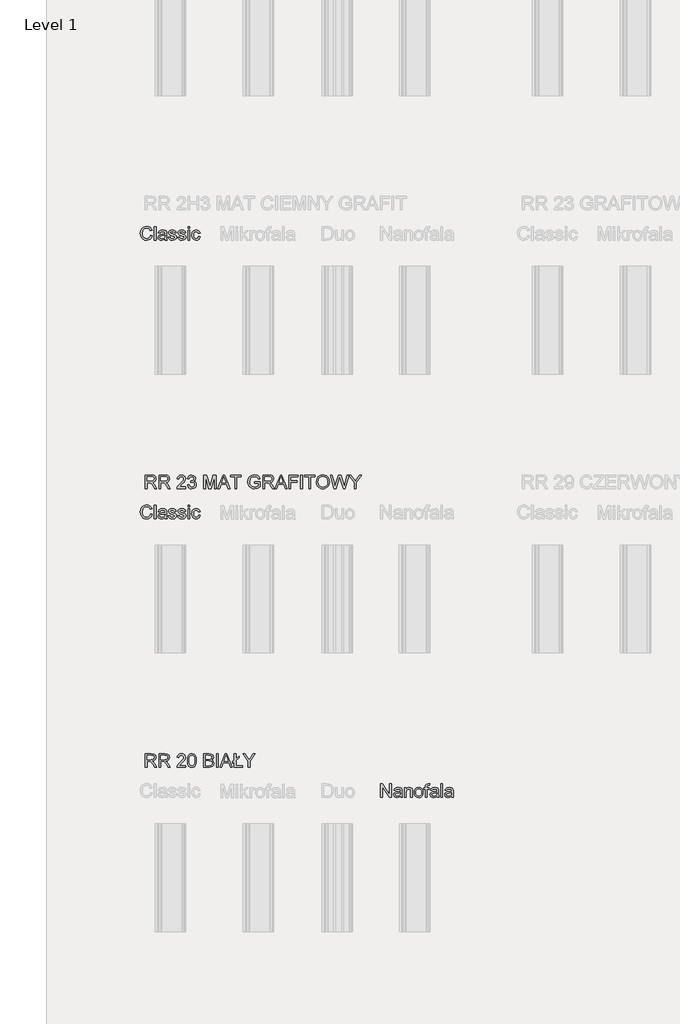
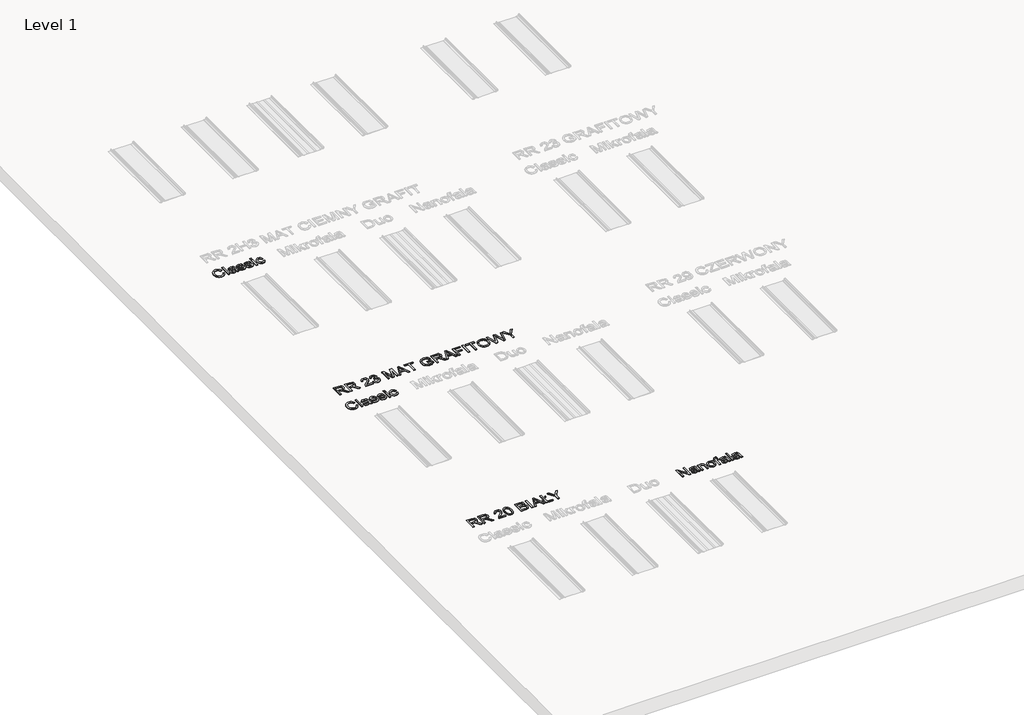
# One storey, part 11 of 24: 5 proxies.
"""IFC4 building model written with IfcOpenShell, lengths in millimetres."""

from ifc_helpers import new_model, si_unit, frame, origin, place, context, project, spatial, polyline, outline, extrude, element, save

model = new_model("IFC4")

# Units and contexts
model_context = context("Model", 3, world=origin())
ifc_project = project(units=[si_unit("LENGTHUNIT", "METRE", prefix="MILLI")], contexts=[model_context])

# Site, building, storey
site = spatial("IfcSite", under=ifc_project)
building = spatial("IfcBuilding", under=site)
storey = spatial("IfcBuildingStorey", under=building, Name="Level 1", Elevation=0.0)

# Proxies
placement = place(None, origin())
element("IfcBuildingElementProxy", 1, Name="150", ObjectType="150", at=placement, inside=storey, context=model_context, shape_type="SweptSolid", body=[
    extrude(outline(polyline([(-8679.0085992, -1917.1818641), (-8660.1730411, -1922.0379064), (-8668.8642532, -1943.986666), (-8682.5034782, -1960.0217224), (-8700.4193314, -1969.8303761), (-8721.9404281, -1973.0999274), (-8743.7880201, -1970.6259209), (-8761.1382547, -1963.2039017), (-8774.4371888, -1951.091387), (-8784.1308794, -1934.5458943), (-8790.049181, -1915.0941338), (-8792.0219482, -1894.2628158), (-8789.7916636, -1872.2910636), (-8783.1008098, -1853.3175497), (-8772.2988747, -1837.9446809), (-8757.7353462, -1826.7748638), (-8740.4632865, -1819.9736454), (-8721.5357579, -1817.7065726), (-8700.8837824, -1820.6404315), (-8683.8094593, -1829.4420082), (-8670.8462175, -1843.5686769), (-8662.5274859, -1862.4778114), (-8681.363044, -1866.9659718), (-8687.8929494, -1853.2301778), (-8696.8140878, -1843.8078002), (-8708.2368238, -1838.3585481), (-8722.2715219, -1836.5421308), (-8738.4491326, -1838.5562847), (-8751.7388697, -1844.5987464), (-8761.8234349, -1854.0349196), (-8768.38553, -1866.2302078), (-8773.18639, -1894.2260276), (-8771.7654458, -1911.626846), (-8767.5026132, -1926.6732196), (-8760.2369438, -1938.7903328), (-8749.8074892, -1947.40337), (-8737.3040999, -1952.5491194), (-8723.8166263, -1954.2643692), (-8708.0942695, -1951.9283185), (-8694.9930719, -1944.9201665), (-8685.1016448, -1933.3134896), (-8679.0085992, -1917.1818641)])), frame((0.0, 0.0, 600.0), z_axis=(0.0, 0.0, 1.0), x_axis=(1.0, 0.0, 0.0)), (0.0, 0.0, 1.0), 10.0),
    extrude(outline(polyline([(-8636.6285934, -1970.7454826), (-8636.6285934, -1820.0610174), (-8617.7930352, -1820.0610174), (-8617.7930352, -1970.7454826), (-8636.6285934, -1970.7454826)])), frame((0.0, 0.0, 600.0), z_axis=(0.0, 0.0, 1.0), x_axis=(1.0, 0.0, 0.0)), (0.0, 0.0, 1.0), 10.0),
    extrude(outline(polyline([(-8518.9063549, -1956.618814), (-8537.171696, -1969.3843192), (-8557.3500234, -1973.0999274), (-8573.0907743, -1970.8650442), (-8584.7020498, -1964.1603949), (-8591.8619531, -1953.9792607), (-8594.2485875, -1941.314923), (-8590.643344, -1926.4157022), (-8581.1703826, -1915.5999715), (-8567.9818131, -1909.419554), (-8551.6846407, -1906.5868626), (-8519.0167195, -1900.1121395), (-8518.9063549, -1895.9182848), (-8520.203139, -1887.5121812), (-8524.0934911, -1882.0123454), (-8532.7939003, -1877.9288552), (-8544.915612, -1876.5676918), (-8563.9718993, -1880.1913295), (-8573.0585846, -1893.0488052), (-8591.8941428, -1890.6943604), (-8583.7455566, -1872.3002607), (-8567.3380196, -1861.5213182), (-8542.4875908, -1857.7321337), (-8519.660513, -1861.0798598), (-8506.7662491, -1869.4859634), (-8500.9905018, -1882.2698628), (-8500.0707968, -1898.7509761), (-8500.0707968, -1922.1850592), (-8499.1143036, -1954.9081627), (-8495.3619072, -1970.7454826), (-8514.1974654, -1970.7454826), (-8518.9063549, -1956.618814)]), holes=[polyline([(-8518.9063549, -1918.9476977), (-8549.2934077, -1924.723445), (-8565.4986096, -1927.7768656), (-8572.8378554, -1932.7432725), (-8575.4130294, -1939.9905478), (-8569.802829, -1950.1808791), (-8553.3401097, -1954.2643692), (-8534.2838223, -1949.7578148), (-8521.9965637, -1938.8501136), (-8519.0167195, -1924.2819866), (-8518.9063549, -1918.9476977)])]), frame((0.0, 0.0, 600.0), z_axis=(0.0, 0.0, 1.0), x_axis=(1.0, 0.0, 0.0)), (0.0, 0.0, 1.0), 10.0),
    extrude(outline(polyline([(-8481.2352386, -1937.7832558), (-8462.3996805, -1935.4288111), (-8459.4290334, -1943.4854268), (-8453.6808772, -1949.4083269), (-8433.7048849, -1954.2643692), (-8414.5014447, -1949.8129971), (-8408.2474508, -1939.3651484), (-8409.8201463, -1934.5642884), (-8414.5382329, -1930.9038625), (-8433.9256141, -1925.5327854), (-8462.2893159, -1916.3173414), (-8474.668545, -1905.5567931), (-8478.8807939, -1890.3632666), (-8475.4962795, -1876.3285685), (-8466.2624414, -1865.6048084), (-8454.2878825, -1860.0313961), (-8438.0826806, -1857.7321337), (-8415.1636323, -1861.4293477), (-8400.5955053, -1871.435738), (-8394.1207822, -1888.3399157), (-8412.9563403, -1890.6943604), (-8420.0380687, -1880.3016941), (-8436.6111526, -1876.5676918), (-8454.6373704, -1880.1361472), (-8460.0452357, -1888.4502803), (-8457.8011555, -1893.931722), (-8450.7746094, -1898.0887885), (-8434.5510134, -1902.0987023), (-8406.9046815, -1910.9646584), (-8394.0655999, -1921.0078368), (-8389.4118926, -1937.3785856), (-8394.8749403, -1955.4048034), (-8410.6386838, -1968.4830083), (-8433.9624023, -1973.0999274), (-8452.9543103, -1970.8742413), (-8466.8142644, -1964.1971831), (-8476.0664966, -1953.1423291), (-8481.2352386, -1937.7832558)])), frame((0.0, 0.0, 600.0), z_axis=(0.0, 0.0, 1.0), x_axis=(1.0, 0.0, 0.0)), (0.0, 0.0, 1.0), 10.0),
    extrude(outline(polyline([(-8375.285224, -1937.7832558), (-8356.4496659, -1935.4288111), (-8353.4790188, -1943.4854268), (-8347.7308626, -1949.4083269), (-8327.7548702, -1954.2643692), (-8308.5514301, -1949.8129971), (-8302.2974362, -1939.3651484), (-8303.8701317, -1934.5642884), (-8308.5882183, -1930.9038625), (-8327.9755994, -1925.5327854), (-8356.3393013, -1916.3173414), (-8368.7185304, -1905.5567931), (-8372.9307793, -1890.3632666), (-8369.5462649, -1876.3285685), (-8360.3124268, -1865.6048084), (-8348.3378679, -1860.0313961), (-8332.132666, -1857.7321337), (-8309.2136177, -1861.4293477), (-8294.6454907, -1871.435738), (-8288.1707676, -1888.3399157), (-8307.0063257, -1890.6943604), (-8314.0880541, -1880.3016941), (-8330.661138, -1876.5676918), (-8348.6873558, -1880.1361472), (-8354.0952211, -1888.4502803), (-8351.8511409, -1893.931722), (-8344.8245948, -1898.0887885), (-8328.6009988, -1902.0987023), (-8300.9546669, -1910.9646584), (-8288.1155853, -1921.0078368), (-8283.461878, -1937.3785856), (-8288.9249257, -1955.4048034), (-8304.6886691, -1968.4830083), (-8328.0123876, -1973.0999274), (-8347.0042956, -1970.8742413), (-8360.8642498, -1964.1971831), (-8370.116482, -1953.1423291), (-8375.285224, -1937.7832558)])), frame((0.0, 0.0, 600.0), z_axis=(0.0, 0.0, 1.0), x_axis=(1.0, 0.0, 0.0)), (0.0, 0.0, 1.0), 10.0),
    extrude(outline(polyline([(-8262.2718751, -1838.8965755), (-8262.2718751, -1820.0610174), (-8243.4363169, -1820.0610174), (-8243.4363169, -1838.8965755), (-8262.2718751, -1838.8965755)])), frame((0.0, 0.0, 600.0), z_axis=(0.0, 0.0, 1.0), x_axis=(1.0, 0.0, 0.0)), (0.0, 0.0, 1.0), 10.0),
    extrude(outline(polyline([(-8262.2718751, -1970.7454826), (-8262.2718751, -1860.0865784), (-8243.4363169, -1860.0865784), (-8243.4363169, -1970.7454826), (-8262.2718751, -1970.7454826)])), frame((0.0, 0.0, 600.0), z_axis=(0.0, 0.0, 1.0), x_axis=(1.0, 0.0, 0.0)), (0.0, 0.0, 1.0), 10.0),
    extrude(outline(polyline([(-8144.5496366, -1930.7199215), (-8125.7140785, -1933.0743663), (-8130.965594, -1949.8267926), (-8140.8340285, -1962.4865318), (-8154.39048, -1970.4465785), (-8170.7060465, -1973.0999274), (-8190.7418197, -1969.3981148), (-8206.4089941, -1958.2926771), (-8216.5211505, -1940.2710578), (-8219.8918693, -1915.8207007), (-8218.452531, -1899.0590773), (-8214.134516, -1884.532337), (-8206.8688466, -1872.8014999), (-8196.5865449, -1864.427586), (-8184.2854906, -1859.4059968), (-8170.9635639, -1857.7321337), (-8155.0480691, -1860.0313961), (-8142.3239506, -1866.9291836), (-8133.1958786, -1878.0576139), (-8128.0685233, -1893.0488052), (-8146.9040814, -1895.40325), (-8155.6412788, -1881.2949755), (-8170.8164111, -1876.5676918), (-8182.9887066, -1878.8945454), (-8192.6502075, -1885.8751063), (-8198.9547852, -1897.8864535), (-8201.0563111, -1915.3056659), (-8199.0007705, -1932.9594032), (-8192.8341485, -1945.012137), (-8183.3473916, -1951.9513112), (-8171.3314459, -1954.2643692), (-8161.5779745, -1952.8204324), (-8153.5811396, -1948.4886219), (-8147.7640056, -1941.1585731), (-8144.5496366, -1930.7199215)])), frame((0.0, 0.0, 600.0), z_axis=(0.0, 0.0, 1.0), x_axis=(1.0, 0.0, 0.0)), (0.0, 0.0, 1.0), 10.0),
])
element("IfcBuildingElementProxy", 2, Name="150", ObjectType="150", at=placement, inside=storey, context=model_context, shape_type="SweptSolid", body=[
    extrude(outline(polyline([(-8679.0085992, -5017.1818641), (-8660.1730411, -5022.0379064), (-8668.8642532, -5043.986666), (-8682.5034782, -5060.0217224), (-8700.4193314, -5069.8303761), (-8721.9404281, -5073.0999274), (-8743.7880201, -5070.6259209), (-8761.1382547, -5063.2039017), (-8774.4371888, -5051.091387), (-8784.1308794, -5034.5458943), (-8790.049181, -5015.0941338), (-8792.0219482, -4994.2628158), (-8789.7916636, -4972.2910636), (-8783.1008098, -4953.3175497), (-8772.2988747, -4937.9446809), (-8757.7353462, -4926.7748638), (-8740.4632865, -4919.9736454), (-8721.5357579, -4917.7065726), (-8700.8837824, -4920.6404315), (-8683.8094593, -4929.4420082), (-8670.8462175, -4943.5686769), (-8662.5274859, -4962.4778114), (-8681.363044, -4966.9659718), (-8687.8929494, -4953.2301778), (-8696.8140878, -4943.8078002), (-8708.2368238, -4938.3585481), (-8722.2715219, -4936.5421308), (-8738.4491326, -4938.5562847), (-8751.7388697, -4944.5987464), (-8761.8234349, -4954.0349196), (-8768.38553, -4966.2302078), (-8773.18639, -4994.2260276), (-8771.7654458, -5011.626846), (-8767.5026132, -5026.6732196), (-8760.2369438, -5038.7903328), (-8749.8074892, -5047.40337), (-8737.3040999, -5052.5491194), (-8723.8166263, -5054.2643692), (-8708.0942695, -5051.9283185), (-8694.9930719, -5044.9201665), (-8685.1016448, -5033.3134896), (-8679.0085992, -5017.1818641)])), frame((0.0, 0.0, 600.0), z_axis=(0.0, 0.0, 1.0), x_axis=(1.0, 0.0, 0.0)), (0.0, 0.0, 1.0), 10.0),
    extrude(outline(polyline([(-8636.6285934, -5070.7454826), (-8636.6285934, -4920.0610174), (-8617.7930352, -4920.0610174), (-8617.7930352, -5070.7454826), (-8636.6285934, -5070.7454826)])), frame((0.0, 0.0, 600.0), z_axis=(0.0, 0.0, 1.0), x_axis=(1.0, 0.0, 0.0)), (0.0, 0.0, 1.0), 10.0),
    extrude(outline(polyline([(-8518.9063549, -5056.618814), (-8537.171696, -5069.3843192), (-8557.3500234, -5073.0999274), (-8573.0907743, -5070.8650442), (-8584.7020498, -5064.1603949), (-8591.8619531, -5053.9792607), (-8594.2485875, -5041.314923), (-8590.643344, -5026.4157022), (-8581.1703826, -5015.5999715), (-8567.9818131, -5009.419554), (-8551.6846407, -5006.5868626), (-8519.0167195, -5000.1121395), (-8518.9063549, -4995.9182848), (-8520.203139, -4987.5121812), (-8524.0934911, -4982.0123454), (-8532.7939003, -4977.9288552), (-8544.915612, -4976.5676918), (-8563.9718993, -4980.1913295), (-8573.0585846, -4993.0488052), (-8591.8941428, -4990.6943604), (-8583.7455566, -4972.3002607), (-8567.3380196, -4961.5213182), (-8542.4875908, -4957.7321337), (-8519.660513, -4961.0798598), (-8506.7662491, -4969.4859634), (-8500.9905018, -4982.2698628), (-8500.0707968, -4998.7509761), (-8500.0707968, -5022.1850592), (-8499.1143036, -5054.9081627), (-8495.3619072, -5070.7454826), (-8514.1974654, -5070.7454826), (-8518.9063549, -5056.618814)]), holes=[polyline([(-8518.9063549, -5018.9476977), (-8549.2934077, -5024.723445), (-8565.4986096, -5027.7768656), (-8572.8378554, -5032.7432725), (-8575.4130294, -5039.9905478), (-8569.802829, -5050.1808791), (-8553.3401097, -5054.2643692), (-8534.2838223, -5049.7578148), (-8521.9965637, -5038.8501136), (-8519.0167195, -5024.2819866), (-8518.9063549, -5018.9476977)])]), frame((0.0, 0.0, 600.0), z_axis=(0.0, 0.0, 1.0), x_axis=(1.0, 0.0, 0.0)), (0.0, 0.0, 1.0), 10.0),
    extrude(outline(polyline([(-8481.2352386, -5037.7832558), (-8462.3996805, -5035.4288111), (-8459.4290334, -5043.4854268), (-8453.6808772, -5049.4083269), (-8433.7048849, -5054.2643692), (-8414.5014447, -5049.8129971), (-8408.2474508, -5039.3651484), (-8409.8201463, -5034.5642884), (-8414.5382329, -5030.9038625), (-8433.9256141, -5025.5327854), (-8462.2893159, -5016.3173414), (-8474.668545, -5005.5567931), (-8478.8807939, -4990.3632666), (-8475.4962795, -4976.3285685), (-8466.2624414, -4965.6048084), (-8454.2878825, -4960.0313961), (-8438.0826806, -4957.7321337), (-8415.1636323, -4961.4293477), (-8400.5955053, -4971.435738), (-8394.1207822, -4988.3399157), (-8412.9563403, -4990.6943604), (-8420.0380687, -4980.3016941), (-8436.6111526, -4976.5676918), (-8454.6373704, -4980.1361472), (-8460.0452357, -4988.4502803), (-8457.8011555, -4993.931722), (-8450.7746094, -4998.0887885), (-8434.5510134, -5002.0987023), (-8406.9046815, -5010.9646584), (-8394.0655999, -5021.0078368), (-8389.4118926, -5037.3785856), (-8394.8749403, -5055.4048034), (-8410.6386838, -5068.4830083), (-8433.9624023, -5073.0999274), (-8452.9543103, -5070.8742413), (-8466.8142644, -5064.1971831), (-8476.0664966, -5053.1423291), (-8481.2352386, -5037.7832558)])), frame((0.0, 0.0, 600.0), z_axis=(0.0, 0.0, 1.0), x_axis=(1.0, 0.0, 0.0)), (0.0, 0.0, 1.0), 10.0),
    extrude(outline(polyline([(-8375.285224, -5037.7832558), (-8356.4496659, -5035.4288111), (-8353.4790188, -5043.4854268), (-8347.7308626, -5049.4083269), (-8327.7548702, -5054.2643692), (-8308.5514301, -5049.8129971), (-8302.2974362, -5039.3651484), (-8303.8701317, -5034.5642884), (-8308.5882183, -5030.9038625), (-8327.9755994, -5025.5327854), (-8356.3393013, -5016.3173414), (-8368.7185304, -5005.5567931), (-8372.9307793, -4990.3632666), (-8369.5462649, -4976.3285685), (-8360.3124268, -4965.6048084), (-8348.3378679, -4960.0313961), (-8332.132666, -4957.7321337), (-8309.2136177, -4961.4293477), (-8294.6454907, -4971.435738), (-8288.1707676, -4988.3399157), (-8307.0063257, -4990.6943604), (-8314.0880541, -4980.3016941), (-8330.661138, -4976.5676918), (-8348.6873558, -4980.1361472), (-8354.0952211, -4988.4502803), (-8351.8511409, -4993.931722), (-8344.8245948, -4998.0887885), (-8328.6009988, -5002.0987023), (-8300.9546669, -5010.9646584), (-8288.1155853, -5021.0078368), (-8283.461878, -5037.3785856), (-8288.9249257, -5055.4048034), (-8304.6886691, -5068.4830083), (-8328.0123876, -5073.0999274), (-8347.0042956, -5070.8742413), (-8360.8642498, -5064.1971831), (-8370.116482, -5053.1423291), (-8375.285224, -5037.7832558)])), frame((0.0, 0.0, 600.0), z_axis=(0.0, 0.0, 1.0), x_axis=(1.0, 0.0, 0.0)), (0.0, 0.0, 1.0), 10.0),
    extrude(outline(polyline([(-8262.2718751, -4938.8965755), (-8262.2718751, -4920.0610174), (-8243.4363169, -4920.0610174), (-8243.4363169, -4938.8965755), (-8262.2718751, -4938.8965755)])), frame((0.0, 0.0, 600.0), z_axis=(0.0, 0.0, 1.0), x_axis=(1.0, 0.0, 0.0)), (0.0, 0.0, 1.0), 10.0),
    extrude(outline(polyline([(-8262.2718751, -5070.7454826), (-8262.2718751, -4960.0865784), (-8243.4363169, -4960.0865784), (-8243.4363169, -5070.7454826), (-8262.2718751, -5070.7454826)])), frame((0.0, 0.0, 600.0), z_axis=(0.0, 0.0, 1.0), x_axis=(1.0, 0.0, 0.0)), (0.0, 0.0, 1.0), 10.0),
    extrude(outline(polyline([(-8144.5496366, -5030.7199215), (-8125.7140785, -5033.0743663), (-8130.965594, -5049.8267926), (-8140.8340285, -5062.4865318), (-8154.39048, -5070.4465785), (-8170.7060465, -5073.0999274), (-8190.7418197, -5069.3981148), (-8206.4089941, -5058.2926771), (-8216.5211505, -5040.2710578), (-8219.8918693, -5015.8207007), (-8218.452531, -4999.0590773), (-8214.134516, -4984.532337), (-8206.8688466, -4972.8014999), (-8196.5865449, -4964.427586), (-8184.2854906, -4959.4059968), (-8170.9635639, -4957.7321337), (-8155.0480691, -4960.0313961), (-8142.3239506, -4966.9291836), (-8133.1958786, -4978.0576139), (-8128.0685233, -4993.0488052), (-8146.9040814, -4995.40325), (-8155.6412788, -4981.2949755), (-8170.8164111, -4976.5676918), (-8182.9887066, -4978.8945454), (-8192.6502075, -4985.8751063), (-8198.9547852, -4997.8864535), (-8201.0563111, -5015.3056659), (-8199.0007705, -5032.9594032), (-8192.8341485, -5045.012137), (-8183.3473916, -5051.9513112), (-8171.3314459, -5054.2643692), (-8161.5779745, -5052.8204324), (-8153.5811396, -5048.4886219), (-8147.7640056, -5041.1585731), (-8144.5496366, -5030.7199215)])), frame((0.0, 0.0, 600.0), z_axis=(0.0, 0.0, 1.0), x_axis=(1.0, 0.0, 0.0)), (0.0, 0.0, 1.0), 10.0),
])
element("IfcBuildingElementProxy", 3, Name="150", ObjectType="150", at=placement, inside=storey, context=model_context, shape_type="SweptSolid", body=[
    extrude(outline(polyline([(-8736.4118342, -7835.6514112), (-8736.4118342, -7684.966946), (-8671.4806621, -7684.966946), (-8641.3327325, -7689.032042), (-8632.0529092, -7694.6606365), (-8624.8516192, -7703.416228), (-8620.2301016, -7714.2733454), (-8618.6895957, -7726.2065176), (-8621.2417771, -7741.0505561), (-8628.8983211, -7753.3562089), (-8641.8891541, -7762.3785148), (-8660.4442022, -7767.3725129), (-8649.7388361, -7775.4291286), (-8634.4717333, -7794.8165097), (-8609.3453931, -7835.6514112), (-8631.2343718, -7835.6514112), (-8650.8424821, -7804.4182298), (-8665.0059389, -7783.7432617), (-8674.9571469, -7773.9759947), (-8683.9150735, -7770.3891452), (-8694.8411687, -7769.7269577), (-8717.576276, -7769.7269577), (-8717.576276, -7835.6514112), (-8736.4118342, -7835.6514112)]), holes=[polyline([(-8717.576276, -7750.8913995), (-8675.4169994, -7750.8913995), (-8653.9142968, -7748.224255), (-8641.7006145, -7739.6893927), (-8637.5251539, -7726.9054934), (-8639.5163152, -7717.7176406), (-8645.4897991, -7710.3140154), (-8655.7675023, -7705.4303819), (-8670.6713217, -7703.8025041), (-8717.576276, -7703.8025041), (-8717.576276, -7750.8913995)])]), frame((0.0, 0.0, 600.0), z_axis=(0.0, 0.0, 1.0), x_axis=(1.0, 0.0, 0.0)), (0.0, 0.0, 1.0), 10.0),
    extrude(outline(polyline([(-8585.727369, -7835.6514112), (-8585.727369, -7684.966946), (-8520.7961968, -7684.966946), (-8490.6482673, -7689.032042), (-8481.368444, -7694.6606365), (-8474.1671539, -7703.416228), (-8469.5456364, -7714.2733454), (-8468.0051305, -7726.2065176), (-8470.5573119, -7741.0505561), (-8478.2138559, -7753.3562089), (-8491.2046888, -7762.3785148), (-8509.759737, -7767.3725129), (-8499.0543709, -7775.4291286), (-8483.7872681, -7794.8165097), (-8458.6609278, -7835.6514112), (-8480.5499066, -7835.6514112), (-8500.1580169, -7804.4182298), (-8514.3214737, -7783.7432617), (-8524.2726817, -7773.9759947), (-8533.2306083, -7770.3891452), (-8544.1567035, -7769.7269577), (-8566.8918108, -7769.7269577), (-8566.8918108, -7835.6514112), (-8585.727369, -7835.6514112)]), holes=[polyline([(-8566.8918108, -7750.8913995), (-8524.7325342, -7750.8913995), (-8503.2298316, -7748.224255), (-8491.0161493, -7739.6893927), (-8486.8406887, -7726.9054934), (-8488.83185, -7717.7176406), (-8494.8053339, -7710.3140154), (-8505.0830371, -7705.4303819), (-8519.9868564, -7703.8025041), (-8566.8918108, -7703.8025041), (-8566.8918108, -7750.8913995)])]), frame((0.0, 0.0, 600.0), z_axis=(0.0, 0.0, 1.0), x_axis=(1.0, 0.0, 0.0)), (0.0, 0.0, 1.0), 10.0),
    extrude(outline(polyline([(-8286.7128833, -7816.815853), (-8286.7128833, -7835.6514112), (-8385.5995636, -7835.6514112), (-8383.5762126, -7822.6651768), (-8372.1166885, -7802.6707903), (-8348.5170585, -7780.8369939), (-8316.0146842, -7749.4566597), (-8309.9308357, -7738.6409291), (-8307.9028862, -7728.119504), (-8309.8204711, -7718.6879293), (-8315.5732258, -7710.8474443), (-8324.4161893, -7705.5637392), (-8335.6044005, -7703.8025041), (-8347.3536317, -7705.5223524), (-8356.4817037, -7710.6818974), (-8362.3724141, -7718.8764689), (-8364.4095607, -7729.7013966), (-8383.2451188, -7727.3469518), (-8378.6787836, -7709.127596), (-8368.8057505, -7695.8194648), (-8354.1410545, -7687.6800757), (-8335.1997303, -7684.966946), (-8316.1204503, -7687.9835783), (-8301.4833454, -7697.0334754), (-8292.1713324, -7710.5531387), (-8289.0673281, -7726.9790698), (-8292.4150542, -7744.8397407), (-8303.5434846, -7763.3074168), (-8330.5276289, -7789.1143388), (-8352.1958784, -7807.2325271), (-8360.6939525, -7816.815853), (-8286.7128833, -7816.815853)])), frame((0.0, 0.0, 600.0), z_axis=(0.0, 0.0, 1.0), x_axis=(1.0, 0.0, 0.0)), (0.0, 0.0, 1.0), 10.0),
    extrude(outline(polyline([(-8267.8773251, -7761.5231892), (-8266.4931691, -7737.4039259), (-8262.3407011, -7718.168296), (-8255.4613078, -7703.5219941), (-8245.8963759, -7693.1707145), (-8233.5769276, -7687.0178881), (-8218.433985, -7684.966946), (-8196.4346417, -7689.8229883), (-8181.2411153, -7703.8208982), (-8172.4119474, -7726.1145471), (-8168.9906448, -7761.5231892), (-8170.3610053, -7785.5044967), (-8174.4720866, -7804.6941413), (-8181.3100932, -7819.3542388), (-8190.8612295, -7829.7469052), (-8203.2082689, -7835.9411183), (-8218.433985, -7838.005856), (-8238.0053071, -7834.4190065), (-8252.8677397, -7823.6584581), (-8264.1249288, -7798.1734329), (-8267.8773251, -7761.5231892)]), holes=[polyline([(-8249.041767, -7761.486401), (-8246.834475, -7791.1146971), (-8240.2125991, -7808.2625966), (-8230.3533616, -7816.4433725), (-8218.433985, -7819.1702978), (-8206.5146083, -7816.4341755), (-8196.6553709, -7808.2258084), (-8190.033495, -7791.0687119), (-8187.826203, -7761.486401), (-8189.9599186, -7732.5248909), (-8196.3610653, -7715.2436342), (-8206.2019087, -7706.6627866), (-8218.6547142, -7703.8025041), (-8230.4453321, -7706.3224958), (-8239.9182935, -7713.8824708), (-8246.7608986, -7732.2397823), (-8249.041767, -7761.486401)])]), frame((0.0, 0.0, 600.0), z_axis=(0.0, 0.0, 1.0), x_axis=(1.0, 0.0, 0.0)), (0.0, 0.0, 1.0), 10.0),
    extrude(outline(polyline([(-8086.5850779, -7835.6514112), (-8086.5850779, -7684.966946), (-8029.0851221, -7684.966946), (-8000.9237553, -7689.399924), (-7991.459991, -7695.02392), (-7984.2954892, -7703.0299519), (-7978.2806185, -7722.3069685), (-7983.338996, -7739.9101219), (-7998.6244929, -7753.2458443), (-7987.9513165, -7758.8192565), (-7980.0648462, -7767.2989365), (-7975.1950083, -7778.1238642), (-7973.571729, -7790.7330196), (-7978.004707, -7810.9849234), (-7988.9859846, -7825.4058976), (-8005.3751275, -7833.0578431), (-8029.5265805, -7835.6514112), (-8086.5850779, -7835.6514112)]), holes=[polyline([(-8067.7495198, -7746.18251), (-8033.3525532, -7746.18251), (-8013.2661963, -7744.5638292), (-8001.1812727, -7737.5924654), (-7997.1161767, -7725.3236008), (-8000.9053612, -7713.0363422), (-8011.7578801, -7705.7706728), (-8035.9645154, -7703.8025041), (-8067.7495198, -7703.8025041), (-8067.7495198, -7746.18251)]), polyline([(-8067.7495198, -7816.815853), (-8029.1219103, -7816.815853), (-8015.1423945, -7816.080089), (-8003.3149883, -7811.9782048), (-7995.4791018, -7803.6088894), (-7992.4072872, -7790.9169606), (-7996.0125307, -7776.2752572), (-8007.6927841, -7767.5380598), (-8030.9613203, -7765.0180681), (-8067.7495198, -7765.0180681), (-8067.7495198, -7816.815853)])]), frame((0.0, 0.0, 600.0), z_axis=(0.0, 0.0, 1.0), x_axis=(1.0, 0.0, 0.0)), (0.0, 0.0, 1.0), 10.0),
    extrude(outline(polyline([(-7945.3183918, -7835.6514112), (-7945.3183918, -7684.966946), (-7926.4828336, -7684.966946), (-7926.4828336, -7835.6514112), (-7945.3183918, -7835.6514112)])), frame((0.0, 0.0, 600.0), z_axis=(0.0, 0.0, 1.0), x_axis=(1.0, 0.0, 0.0)), (0.0, 0.0, 1.0), 10.0),
    extrude(outline(polyline([(-7906.3229003, -7835.6514112), (-7846.1741941, -7684.966946), (-7830.1345391, -7684.966946), (-7770.0226211, -7835.6514112), (-7789.925037, -7835.6514112), (-7807.1419144, -7788.5625158), (-7869.2403952, -7788.5625158), (-7886.4572725, -7835.6514112), (-7906.3229003, -7835.6514112)]), holes=[polyline([(-7862.3242137, -7769.7269577), (-7814.0213077, -7769.7269577), (-7827.6329415, -7732.6812407), (-7838.1911548, -7703.8025041), (-7847.5721457, -7729.4438792), (-7862.3242137, -7769.7269577)])]), frame((0.0, 0.0, 600.0), z_axis=(0.0, 0.0, 1.0), x_axis=(1.0, 0.0, 0.0)), (0.0, 0.0, 1.0), 10.0),
    extrude(outline(polyline([(-7747.5450312, -7776.0177398), (-7764.0261446, -7789.7397382), (-7764.0261446, -7770.90418), (-7747.5450312, -7757.1821816), (-7747.5450312, -7684.966946), (-7728.709473, -7684.966946), (-7728.709473, -7741.4736204), (-7693.3928015, -7712.0430608), (-7693.3928015, -7730.878619), (-7728.709473, -7760.3091786), (-7728.709473, -7816.815853), (-7653.3672404, -7816.815853), (-7653.3672404, -7835.6514112), (-7747.5450312, -7835.6514112), (-7747.5450312, -7776.0177398)])), frame((0.0, 0.0, 600.0), z_axis=(0.0, 0.0, 1.0), x_axis=(1.0, 0.0, 0.0)), (0.0, 0.0, 1.0), 10.0),
    extrude(outline(polyline([(-7592.1516764, -7835.6514112), (-7592.1516764, -7771.823885), (-7651.0127956, -7684.966946), (-7628.8295113, -7684.966946), (-7597.4123889, -7731.3568656), (-7581.3359457, -7755.048466), (-7565.1859262, -7729.6646084), (-7536.6750715, -7684.966946), (-7514.454999, -7684.966946), (-7573.3161183, -7771.823885), (-7573.3161183, -7835.6514112), (-7592.1516764, -7835.6514112)])), frame((0.0, 0.0, 600.0), z_axis=(0.0, 0.0, 1.0), x_axis=(1.0, 0.0, 0.0)), (0.0, 0.0, 1.0), 10.0),
])
element("IfcBuildingElementProxy", 4, Name="150", ObjectType="150", at=placement, inside=storey, context=model_context, shape_type="SweptSolid", body=[
    extrude(outline(polyline([(-6116.7806572, -8172.1592468), (-6116.7806572, -8021.4747816), (-6096.6207239, -8021.4747816), (-6017.8939769, -8140.852489), (-6017.8939769, -8021.4747816), (-5999.0584188, -8021.4747816), (-5999.0584188, -8172.1592468), (-6019.2183521, -8172.1592468), (-6097.9450991, -8052.7447512), (-6097.9450991, -8172.1592468), (-6116.7806572, -8172.1592468)])), frame((0.0, 0.0, 600.0), z_axis=(0.0, 0.0, 1.0), x_axis=(1.0, 0.0, 0.0)), (0.0, 0.0, 1.0), 10.0),
    extrude(outline(polyline([(-5897.8172937, -8158.0325782), (-5916.0826347, -8170.7980834), (-5936.2609622, -8174.5136916), (-5952.001713, -8172.2788084), (-5963.6129885, -8165.5741591), (-5970.7728919, -8155.3930249), (-5973.1595263, -8142.7286872), (-5969.5542827, -8127.8294664), (-5960.0813214, -8117.0137357), (-5946.8927518, -8110.8333182), (-5930.5955795, -8108.0006268), (-5897.9276583, -8101.5259037), (-5897.8172937, -8097.332049), (-5899.1140777, -8088.9259454), (-5903.0044298, -8083.4261096), (-5911.704839, -8079.3426194), (-5923.8265507, -8077.981456), (-5942.8828381, -8081.6050937), (-5951.9695234, -8094.4625694), (-5970.8050815, -8092.1081246), (-5962.6564953, -8073.7140249), (-5946.2489583, -8062.9350824), (-5921.3985296, -8059.1458979), (-5898.5714518, -8062.493624), (-5885.6771878, -8070.8997276), (-5879.9014405, -8083.683627), (-5878.9817355, -8100.1647403), (-5878.9817355, -8123.5988234), (-5878.0252423, -8156.3219269), (-5874.272846, -8172.1592468), (-5893.1084041, -8172.1592468), (-5897.8172937, -8158.0325782)]), holes=[polyline([(-5897.8172937, -8120.3614619), (-5928.2043465, -8126.1372092), (-5944.4095484, -8129.1906298), (-5951.7487942, -8134.1570367), (-5954.3239681, -8141.404312), (-5948.7137677, -8151.5946433), (-5932.2510484, -8155.6781334), (-5913.1947611, -8151.171579), (-5900.9075024, -8140.2638778), (-5897.9276583, -8125.6957508), (-5897.8172937, -8120.3614619)])]), frame((0.0, 0.0, 600.0), z_axis=(0.0, 0.0, 1.0), x_axis=(1.0, 0.0, 0.0)), (0.0, 0.0, 1.0), 10.0),
    extrude(outline(polyline([(-5853.0828431, -8172.1592468), (-5853.0828431, -8061.5003426), (-5834.2472849, -8061.5003426), (-5834.2472849, -8076.9513864), (-5819.8447048, -8063.59727), (-5800.1814122, -8059.1458979), (-5782.3943177, -8062.7327473), (-5770.2542119, -8072.1505264), (-5764.6072232, -8086.0012835), (-5763.6139418, -8104.2114423), (-5763.6139418, -8172.1592468), (-5782.4495, -8172.1592468), (-5782.4495, -8106.749828), (-5784.6200038, -8090.0847737), (-5792.2903434, -8081.2739999), (-5805.2213955, -8077.981456), (-5816.2532568, -8079.8300631), (-5825.6572403, -8085.3758841), (-5832.0997738, -8096.0904472), (-5834.2472849, -8113.4452804), (-5834.2472849, -8172.1592468), (-5853.0828431, -8172.1592468)])), frame((0.0, 0.0, 600.0), z_axis=(0.0, 0.0, 1.0), x_axis=(1.0, 0.0, 0.0)), (0.0, 0.0, 1.0), 10.0),
    extrude(outline(polyline([(-5742.4239389, -8116.8297947), (-5738.3496458, -8090.149153), (-5726.1267665, -8071.3963683), (-5711.0252106, -8062.2085155), (-5692.9438106, -8059.1458979), (-5673.1563578, -8062.8753016), (-5657.3512275, -8074.0635128), (-5646.9907508, -8091.8276146), (-5643.5372586, -8115.2846903), (-5645.0639689, -8134.3133865), (-5649.6440997, -8148.7987401), (-5657.1442939, -8159.6466604), (-5667.4311942, -8167.7630569), (-5679.649475, -8172.8260329), (-5692.9438106, -8174.5136916), (-5712.9703867, -8170.7980834), (-5728.7571228, -8159.651259), (-5739.0072349, -8141.5146766), (-5742.4239389, -8116.8297947)]), holes=[polyline([(-5723.5883808, -8116.7930065), (-5721.4086799, -8133.8397385), (-5714.8695775, -8145.9844428), (-5705.0287341, -8153.2547108), (-5692.9438106, -8155.6781334), (-5680.9140693, -8153.2409152), (-5671.0916201, -8145.9292605), (-5664.5525176, -8133.6236078), (-5662.3728168, -8116.2043953), (-5664.5663132, -8099.6543041), (-5671.1468024, -8087.6751466), (-5680.9830472, -8080.4048787), (-5692.9438106, -8077.981456), (-5705.0287341, -8080.3956816), (-5714.8695775, -8087.6383584), (-5721.4086799, -8099.7554716), (-5723.5883808, -8116.7930065)])]), frame((0.0, 0.0, 600.0), z_axis=(0.0, 0.0, 1.0), x_axis=(1.0, 0.0, 0.0)), (0.0, 0.0, 1.0), 10.0),
    extrude(outline(polyline([(-5617.6383662, -8172.1592468), (-5617.6383662, -8080.3359008), (-5634.1194795, -8080.3359008), (-5634.1194795, -8061.5003426), (-5617.6383662, -8061.5003426), (-5617.6383662, -8050.3535182), (-5615.6518034, -8034.644957), (-5606.0132951, -8023.4245561), (-5587.0305842, -8019.1203368), (-5569.850495, -8021.180476), (-5572.6096099, -8038.8388117), (-5583.4621288, -8037.955895), (-5595.3263231, -8041.0828919), (-5598.802808, -8052.7447512), (-5598.802808, -8061.5003426), (-5577.6128051, -8061.5003426), (-5577.6128051, -8080.3359008), (-5598.802808, -8080.3359008), (-5598.802808, -8172.1592468), (-5617.6383662, -8172.1592468)])), frame((0.0, 0.0, 600.0), z_axis=(0.0, 0.0, 1.0), x_axis=(1.0, 0.0, 0.0)), (0.0, 0.0, 1.0), 10.0),
    extrude(outline(polyline([(-5490.4983486, -8158.0325782), (-5508.7636897, -8170.7980834), (-5528.9420171, -8174.5136916), (-5544.682768, -8172.2788084), (-5556.2940435, -8165.5741591), (-5563.4539468, -8155.3930249), (-5565.8405812, -8142.7286872), (-5562.2353377, -8127.8294664), (-5552.7623763, -8117.0137357), (-5539.5738068, -8110.8333182), (-5523.2766344, -8108.0006268), (-5490.6087132, -8101.5259037), (-5490.4983486, -8097.332049), (-5491.7951327, -8088.9259454), (-5495.6854848, -8083.4261096), (-5504.3858939, -8079.3426194), (-5516.5076057, -8077.981456), (-5535.563893, -8081.6050937), (-5544.6505783, -8094.4625694), (-5563.4861365, -8092.1081246), (-5555.3375503, -8073.7140249), (-5538.9300133, -8062.9350824), (-5514.0795845, -8059.1458979), (-5491.2525067, -8062.493624), (-5478.3582428, -8070.8997276), (-5472.5824955, -8083.683627), (-5471.6627905, -8100.1647403), (-5471.6627905, -8123.5988234), (-5470.7062973, -8156.3219269), (-5466.9539009, -8172.1592468), (-5485.7894591, -8172.1592468), (-5490.4983486, -8158.0325782)]), holes=[polyline([(-5490.4983486, -8120.3614619), (-5520.8854014, -8126.1372092), (-5537.0906033, -8129.1906298), (-5544.4298491, -8134.1570367), (-5547.0050231, -8141.404312), (-5541.3948227, -8151.5946433), (-5524.9321034, -8155.6781334), (-5505.875816, -8151.171579), (-5493.5885574, -8140.2638778), (-5490.6087132, -8125.6957508), (-5490.4983486, -8120.3614619)])]), frame((0.0, 0.0, 600.0), z_axis=(0.0, 0.0, 1.0), x_axis=(1.0, 0.0, 0.0)), (0.0, 0.0, 1.0), 10.0),
    extrude(outline(polyline([(-5445.763898, -8172.1592468), (-5445.763898, -8021.4747816), (-5426.9283399, -8021.4747816), (-5426.9283399, -8172.1592468), (-5445.763898, -8172.1592468)])), frame((0.0, 0.0, 600.0), z_axis=(0.0, 0.0, 1.0), x_axis=(1.0, 0.0, 0.0)), (0.0, 0.0, 1.0), 10.0),
    extrude(outline(polyline([(-5328.0416596, -8158.0325782), (-5346.3070006, -8170.7980834), (-5366.485328, -8174.5136916), (-5382.2260789, -8172.2788084), (-5393.8373544, -8165.5741591), (-5400.9972577, -8155.3930249), (-5403.3838922, -8142.7286872), (-5399.7786486, -8127.8294664), (-5390.3056872, -8117.0137357), (-5377.1171177, -8110.8333182), (-5360.8199453, -8108.0006268), (-5328.1520242, -8101.5259037), (-5328.0416596, -8097.332049), (-5329.3384436, -8088.9259454), (-5333.2287957, -8083.4261096), (-5341.9292049, -8079.3426194), (-5354.0509166, -8077.981456), (-5373.107204, -8081.6050937), (-5382.1938892, -8094.4625694), (-5401.0294474, -8092.1081246), (-5392.8808612, -8073.7140249), (-5376.4733242, -8062.9350824), (-5351.6228954, -8059.1458979), (-5328.7958176, -8062.493624), (-5315.9015537, -8070.8997276), (-5310.1258064, -8083.683627), (-5309.2061014, -8100.1647403), (-5309.2061014, -8123.5988234), (-5308.2496082, -8156.3219269), (-5304.4972119, -8172.1592468), (-5323.33277, -8172.1592468), (-5328.0416596, -8158.0325782)]), holes=[polyline([(-5328.0416596, -8120.3614619), (-5358.4287124, -8126.1372092), (-5374.6339142, -8129.1906298), (-5381.97316, -8134.1570367), (-5384.548334, -8141.404312), (-5378.9381336, -8151.5946433), (-5362.4754143, -8155.6781334), (-5343.419127, -8151.171579), (-5331.1318683, -8140.2638778), (-5328.1520242, -8125.6957508), (-5328.0416596, -8120.3614619)])]), frame((0.0, 0.0, 600.0), z_axis=(0.0, 0.0, 1.0), x_axis=(1.0, 0.0, 0.0)), (0.0, 0.0, 1.0), 10.0),
])
element("IfcBuildingElementProxy", 5, Name="150 Blue", ObjectType="150 Blue", at=placement, inside=storey, context=model_context, shape_type="SweptSolid", body=[
    extrude(outline(polyline([(-8736.4118342, -4735.6514112), (-8736.4118342, -4584.966946), (-8671.4806621, -4584.966946), (-8641.3327325, -4589.032042), (-8632.0529092, -4594.6606365), (-8624.8516192, -4603.416228), (-8620.2301016, -4614.2733454), (-8618.6895957, -4626.2065176), (-8621.2417771, -4641.0505561), (-8628.8983211, -4653.3562089), (-8641.8891541, -4662.3785148), (-8660.4442022, -4667.3725129), (-8649.7388361, -4675.4291286), (-8634.4717333, -4694.8165097), (-8609.3453931, -4735.6514112), (-8631.2343718, -4735.6514112), (-8650.8424821, -4704.4182298), (-8665.0059389, -4683.7432617), (-8674.9571469, -4673.9759947), (-8683.9150735, -4670.3891452), (-8694.8411687, -4669.7269577), (-8717.576276, -4669.7269577), (-8717.576276, -4735.6514112), (-8736.4118342, -4735.6514112)]), holes=[polyline([(-8717.576276, -4650.8913995), (-8675.4169994, -4650.8913995), (-8653.9142968, -4648.224255), (-8641.7006145, -4639.6893927), (-8637.5251539, -4626.9054934), (-8639.5163152, -4617.7176406), (-8645.4897991, -4610.3140154), (-8655.7675023, -4605.4303819), (-8670.6713217, -4603.8025041), (-8717.576276, -4603.8025041), (-8717.576276, -4650.8913995)])]), frame((0.0, 0.0, 600.0), z_axis=(0.0, 0.0, 1.0), x_axis=(1.0, 0.0, 0.0)), (0.0, 0.0, 1.0), 10.0),
    extrude(outline(polyline([(-8585.727369, -4735.6514112), (-8585.727369, -4584.966946), (-8520.7961968, -4584.966946), (-8490.6482673, -4589.032042), (-8481.368444, -4594.6606365), (-8474.1671539, -4603.416228), (-8469.5456364, -4614.2733454), (-8468.0051305, -4626.2065176), (-8470.5573119, -4641.0505561), (-8478.2138559, -4653.3562089), (-8491.2046888, -4662.3785148), (-8509.759737, -4667.3725129), (-8499.0543709, -4675.4291286), (-8483.7872681, -4694.8165097), (-8458.6609278, -4735.6514112), (-8480.5499066, -4735.6514112), (-8500.1580169, -4704.4182298), (-8514.3214737, -4683.7432617), (-8524.2726817, -4673.9759947), (-8533.2306083, -4670.3891452), (-8544.1567035, -4669.7269577), (-8566.8918108, -4669.7269577), (-8566.8918108, -4735.6514112), (-8585.727369, -4735.6514112)]), holes=[polyline([(-8566.8918108, -4650.8913995), (-8524.7325342, -4650.8913995), (-8503.2298316, -4648.224255), (-8491.0161493, -4639.6893927), (-8486.8406887, -4626.9054934), (-8488.83185, -4617.7176406), (-8494.8053339, -4610.3140154), (-8505.0830371, -4605.4303819), (-8519.9868564, -4603.8025041), (-8566.8918108, -4603.8025041), (-8566.8918108, -4650.8913995)])]), frame((0.0, 0.0, 600.0), z_axis=(0.0, 0.0, 1.0), x_axis=(1.0, 0.0, 0.0)), (0.0, 0.0, 1.0), 10.0),
    extrude(outline(polyline([(-8286.7128833, -4716.815853), (-8286.7128833, -4735.6514112), (-8385.5995636, -4735.6514112), (-8383.5762126, -4722.6651768), (-8372.1166885, -4702.6707903), (-8348.5170585, -4680.8369939), (-8316.0146842, -4649.4566597), (-8309.9308357, -4638.6409291), (-8307.9028862, -4628.119504), (-8309.8204711, -4618.6879293), (-8315.5732258, -4610.8474443), (-8324.4161893, -4605.5637392), (-8335.6044005, -4603.8025041), (-8347.3536317, -4605.5223524), (-8356.4817037, -4610.6818974), (-8362.3724141, -4618.8764689), (-8364.4095607, -4629.7013966), (-8383.2451188, -4627.3469518), (-8378.6787836, -4609.127596), (-8368.8057505, -4595.8194648), (-8354.1410545, -4587.6800757), (-8335.1997303, -4584.966946), (-8316.1204503, -4587.9835783), (-8301.4833454, -4597.0334754), (-8292.1713324, -4610.5531387), (-8289.0673281, -4626.9790698), (-8292.4150542, -4644.8397407), (-8303.5434846, -4663.3074168), (-8330.5276289, -4689.1143388), (-8352.1958784, -4707.2325271), (-8360.6939525, -4716.815853), (-8286.7128833, -4716.815853)])), frame((0.0, 0.0, 600.0), z_axis=(0.0, 0.0, 1.0), x_axis=(1.0, 0.0, 0.0)), (0.0, 0.0, 1.0), 10.0),
    extrude(outline(polyline([(-8267.8773251, -4695.6258501), (-8249.041767, -4693.2714053), (-8244.8249196, -4705.1080085), (-8238.6491006, -4713.1002449), (-8230.2108074, -4717.6527846), (-8219.2065372, -4719.1702978), (-8206.2938792, -4717.0825675), (-8196.3242771, -4710.8193765), (-8189.9507215, -4701.4751738), (-8187.826203, -4690.1444084), (-8189.9323274, -4679.3884586), (-8196.2507007, -4670.6650567), (-8205.8156326, -4664.8847109), (-8217.6614328, -4662.9579289), (-8230.8683964, -4665.0180681), (-8228.7714691, -4646.18251), (-8225.7548367, -4646.4032392), (-8204.3808928, -4640.9953738), (-8197.2623762, -4634.1343746), (-8194.8895373, -4624.3671076), (-8196.6093856, -4616.232317), (-8201.7689306, -4609.6334337), (-8209.6416053, -4605.2602365), (-8219.5008428, -4603.8025041), (-8229.3784744, -4605.2740321), (-8237.4534841, -4609.688616), (-8243.3487931, -4617.0462559), (-8246.6873222, -4627.3469518), (-8265.5228804, -4624.992507), (-8259.9770593, -4608.0791323), (-8250.1086248, -4595.4515828), (-8236.6073556, -4587.5881052), (-8220.1630304, -4584.966946), (-8197.4463172, -4590.135688), (-8181.553815, -4604.2623566), (-8176.0539791, -4623.2634617), (-8181.2779035, -4640.6274918), (-8196.7289473, -4653.0986915), (-8184.9383293, -4657.8627633), (-8176.2011319, -4665.9745613), (-8170.7932666, -4676.9926271), (-8168.9906448, -4690.4755022), (-8172.5958884, -4708.8328137), (-8183.4116191, -4724.1734929), (-8199.7363826, -4734.5477652), (-8219.8687248, -4738.005856), (-8238.0788835, -4735.0536029), (-8252.9045279, -4726.1968439), (-8263.2144209, -4712.6495894), (-8267.8773251, -4695.6258501)])), frame((0.0, 0.0, 600.0), z_axis=(0.0, 0.0, 1.0), x_axis=(1.0, 0.0, 0.0)), (0.0, 0.0, 1.0), 10.0),
    extrude(outline(polyline([(-8086.5850779, -4735.6514112), (-8086.5850779, -4584.966946), (-8054.2850387, -4584.966946), (-8023.3829512, -4691.174478), (-8017.1289572, -4713.3577623), (-8010.3967167, -4689.335068), (-7980.0832403, -4584.966946), (-7947.6728365, -4584.966946), (-7947.6728365, -4735.6514112), (-7966.5083947, -4735.6514112), (-7966.5083947, -4603.8025041), (-8004.363452, -4735.6514112), (-8029.8576743, -4735.6514112), (-8067.7495198, -4603.8025041), (-8067.7495198, -4735.6514112), (-8086.5850779, -4735.6514112)])), frame((0.0, 0.0, 600.0), z_axis=(0.0, 0.0, 1.0), x_axis=(1.0, 0.0, 0.0)), (0.0, 0.0, 1.0), 10.0),
    extrude(outline(polyline([(-7932.2217927, -4735.6514112), (-7872.0730865, -4584.966946), (-7856.0334315, -4584.966946), (-7795.9215135, -4735.6514112), (-7815.8239295, -4735.6514112), (-7833.0408068, -4688.5625158), (-7895.1392876, -4688.5625158), (-7912.356165, -4735.6514112), (-7932.2217927, -4735.6514112)]), holes=[polyline([(-7888.2231061, -4669.7269577), (-7839.9202002, -4669.7269577), (-7853.531834, -4632.6812407), (-7864.0900472, -4603.8025041), (-7873.4710381, -4629.4438792), (-7888.2231061, -4669.7269577)])]), frame((0.0, 0.0, 600.0), z_axis=(0.0, 0.0, 1.0), x_axis=(1.0, 0.0, 0.0)), (0.0, 0.0, 1.0), 10.0),
    extrude(outline(polyline([(-7738.1272521, -4735.6514112), (-7738.1272521, -4603.8025041), (-7787.5705922, -4603.8025041), (-7787.5705922, -4584.966946), (-7669.8483538, -4584.966946), (-7669.8483538, -4603.8025041), (-7719.2916939, -4603.8025041), (-7719.2916939, -4735.6514112), (-7738.1272521, -4735.6514112)])), frame((0.0, 0.0, 600.0), z_axis=(0.0, 0.0, 1.0), x_axis=(1.0, 0.0, 0.0)), (0.0, 0.0, 1.0), 10.0),
    extrude(outline(polyline([(-7519.1638886, -4676.790292), (-7519.1638886, -4657.9547338), (-7457.9483246, -4657.9547338), (-7457.9483246, -4714.2774673), (-7488.1698305, -4732.0461676), (-7520.1203817, -4738.005856), (-7541.2506038, -4735.6376156), (-7560.3482779, -4728.5328946), (-7576.213189, -4716.9400132), (-7587.645122, -4701.1072918), (-7594.5567049, -4682.1153838), (-7596.8605659, -4661.0449426), (-7594.565902, -4639.82275), (-7587.6819102, -4620.0812824), (-7576.493699, -4603.5219941), (-7561.286377, -4591.8463393), (-7542.7635186, -4584.9209607), (-7521.6286979, -4582.6125012), (-7492.1613501, -4587.9651842), (-7480.4121189, -4594.3663309), (-7471.5047761, -4602.864405), (-7460.1188283, -4627.7884102), (-7477.4828585, -4632.6812407), (-7486.0729031, -4615.2620283), (-7500.7513947, -4605.2188498), (-7521.9230035, -4601.4480593), (-7546.0376683, -4605.5131554), (-7562.4452053, -4616.1817333), (-7572.1388959, -4630.694678), (-7578.0250078, -4660.2723904), (-7576.2545757, -4678.2848126), (-7570.9432794, -4693.1058584), (-7562.2520672, -4704.6297619), (-7550.3418877, -4712.750757), (-7536.4037586, -4717.5654126), (-7521.6286979, -4719.1702978), (-7495.8585642, -4714.3326496), (-7476.7838827, -4704.0135596), (-7476.7838827, -4676.790292), (-7519.1638886, -4676.790292)])), frame((0.0, 0.0, 600.0), z_axis=(0.0, 0.0, 1.0), x_axis=(1.0, 0.0, 0.0)), (0.0, 0.0, 1.0), 10.0),
    extrude(outline(polyline([(-7427.3405426, -4735.6514112), (-7427.3405426, -4584.966946), (-7362.4093704, -4584.966946), (-7332.2614409, -4589.032042), (-7322.9816176, -4594.6606365), (-7315.7803275, -4603.416228), (-7311.15881, -4614.2733454), (-7309.6183041, -4626.2065176), (-7312.1704855, -4641.0505561), (-7319.8270295, -4653.3562089), (-7332.8178624, -4662.3785148), (-7351.3729106, -4667.3725129), (-7340.6675445, -4675.4291286), (-7325.4004417, -4694.8165097), (-7300.2741014, -4735.6514112), (-7322.1630801, -4735.6514112), (-7341.7711905, -4704.4182298), (-7355.9346473, -4683.7432617), (-7365.8858553, -4673.9759947), (-7374.8437819, -4670.3891452), (-7385.7698771, -4669.7269577), (-7408.5049844, -4669.7269577), (-7408.5049844, -4735.6514112), (-7427.3405426, -4735.6514112)]), holes=[polyline([(-7408.5049844, -4650.8913995), (-7366.3457078, -4650.8913995), (-7344.8430051, -4648.224255), (-7332.6293229, -4639.6893927), (-7328.4538623, -4626.9054934), (-7330.4450236, -4617.7176406), (-7336.4185075, -4610.3140154), (-7346.6962107, -4605.4303819), (-7361.60003, -4603.8025041), (-7408.5049844, -4603.8025041), (-7408.5049844, -4650.8913995)])]), frame((0.0, 0.0, 600.0), z_axis=(0.0, 0.0, 1.0), x_axis=(1.0, 0.0, 0.0)), (0.0, 0.0, 1.0), 10.0),
    extrude(outline(polyline([(-7294.1672603, -4735.6514112), (-7234.0185541, -4584.966946), (-7217.9788991, -4584.966946), (-7157.8669811, -4735.6514112), (-7177.769397, -4735.6514112), (-7194.9862744, -4688.5625158), (-7257.0847552, -4688.5625158), (-7274.3016326, -4735.6514112), (-7294.1672603, -4735.6514112)]), holes=[polyline([(-7250.1685737, -4669.7269577), (-7201.8656677, -4669.7269577), (-7215.4773015, -4632.6812407), (-7226.0355148, -4603.8025041), (-7235.4165057, -4629.4438792), (-7250.1685737, -4669.7269577)])]), frame((0.0, 0.0, 600.0), z_axis=(0.0, 0.0, 1.0), x_axis=(1.0, 0.0, 0.0)), (0.0, 0.0, 1.0), 10.0),
    extrude(outline(polyline([(-7137.743836, -4735.6514112), (-7137.743836, -4584.966946), (-7036.5027109, -4584.966946), (-7036.5027109, -4603.8025041), (-7118.9082778, -4603.8025041), (-7118.9082778, -4648.5369547), (-7048.2749347, -4648.5369547), (-7048.2749347, -4667.3725129), (-7118.9082778, -4667.3725129), (-7118.9082778, -4735.6514112), (-7137.743836, -4735.6514112)])), frame((0.0, 0.0, 600.0), z_axis=(0.0, 0.0, 1.0), x_axis=(1.0, 0.0, 0.0)), (0.0, 0.0, 1.0), 10.0),
    extrude(outline(polyline([(-7008.2493737, -4735.6514112), (-7008.2493737, -4584.966946), (-6989.4138155, -4584.966946), (-6989.4138155, -4735.6514112), (-7008.2493737, -4735.6514112)])), frame((0.0, 0.0, 600.0), z_axis=(0.0, 0.0, 1.0), x_axis=(1.0, 0.0, 0.0)), (0.0, 0.0, 1.0), 10.0),
    extrude(outline(polyline([(-6914.0715829, -4735.6514112), (-6914.0715829, -4603.8025041), (-6963.514923, -4603.8025041), (-6963.514923, -4584.966946), (-6845.7926846, -4584.966946), (-6845.7926846, -4603.8025041), (-6895.2360247, -4603.8025041), (-6895.2360247, -4735.6514112), (-6914.0715829, -4735.6514112)])), frame((0.0, 0.0, 600.0), z_axis=(0.0, 0.0, 1.0), x_axis=(1.0, 0.0, 0.0)), (0.0, 0.0, 1.0), 10.0),
    extrude(outline(polyline([(-6831.666016, -4662.2957413), (-6826.6444267, -4628.9748296), (-6820.3674402, -4615.356298), (-6811.579659, -4603.7657159), (-6788.5778373, -4587.9008049), (-6759.7450859, -4582.6125012), (-6739.9806257, -4585.0957047), (-6722.2579106, -4592.5453151), (-6707.5426308, -4604.4371006), (-6696.8004765, -4620.2468293), (-6690.2337829, -4639.2111462), (-6688.0448851, -4660.566696), (-6690.3487461, -4682.2073543), (-6697.260329, -4701.4383856), (-6708.3979564, -4717.2757055), (-6723.3799507, -4728.7352297), (-6740.9509145, -4735.6881994), (-6759.8554505, -4738.005856), (-6779.9234134, -4735.4444776), (-6797.747296, -4727.7603424), (-6812.4257876, -4715.6478277), (-6823.0575773, -4699.8013108), (-6829.5139063, -4681.5681594), (-6831.666016, -4662.2957413)]), holes=[polyline([(-6812.8304578, -4662.4796823), (-6809.0642659, -4686.0517212), (-6797.7656901, -4704.0135596), (-6780.7833375, -4715.3811133), (-6759.9658151, -4719.1702978), (-6738.8447901, -4715.3443251), (-6721.8348463, -4703.8664068), (-6710.619044, -4685.3527454), (-6706.8804432, -4660.4195432), (-6708.4807299, -4643.7452917), (-6713.2815899, -4629.3335146), (-6721.1588631, -4617.5474952), (-6731.9883894, -4608.750517), (-6745.0527987, -4603.2736737), (-6759.6347213, -4601.4480593), (-6779.8958222, -4604.9659309), (-6797.1218966, -4615.5195457), (-6808.9033175, -4634.295323), (-6812.8304578, -4662.4796823)])]), frame((0.0, 0.0, 600.0), z_axis=(0.0, 0.0, 1.0), x_axis=(1.0, 0.0, 0.0)), (0.0, 0.0, 1.0), 10.0),
    extrude(outline(polyline([(-6635.1802424, -4735.6514112), (-6676.2726612, -4584.966946), (-6656.8484919, -4584.966946), (-6633.0097386, -4684.0007791), (-6625.6520987, -4714.5717729), (-6617.779424, -4687.5324462), (-6587.907406, -4584.966946), (-6559.9115861, -4584.966946), (-6538.2065484, -4659.3158972), (-6522.0565288, -4714.5717729), (-6514.9196181, -4684.8836959), (-6490.8969238, -4584.966946), (-6471.4359663, -4584.966946), (-6512.491597, -4735.6514112), (-6532.6515303, -4735.6514112), (-6568.8143304, -4619.4007007), (-6573.8543138, -4603.1771047), (-6579.5196965, -4622.7116387), (-6612.445135, -4735.6514112), (-6635.1802424, -4735.6514112)])), frame((0.0, 0.0, 600.0), z_axis=(0.0, 0.0, 1.0), x_axis=(1.0, 0.0, 0.0)), (0.0, 0.0, 1.0), 10.0),
    extrude(outline(polyline([(-6410.2204023, -4735.6514112), (-6410.2204023, -4671.823885), (-6469.0815215, -4584.966946), (-6446.8982372, -4584.966946), (-6415.4811148, -4631.3568656), (-6399.4046716, -4655.048466), (-6383.2546521, -4629.6646084), (-6354.7437974, -4584.966946), (-6332.5237249, -4584.966946), (-6391.3848441, -4671.823885), (-6391.3848441, -4735.6514112), (-6410.2204023, -4735.6514112)])), frame((0.0, 0.0, 600.0), z_axis=(0.0, 0.0, 1.0), x_axis=(1.0, 0.0, 0.0)), (0.0, 0.0, 1.0), 10.0),
])

save(model, "model.ifc")
